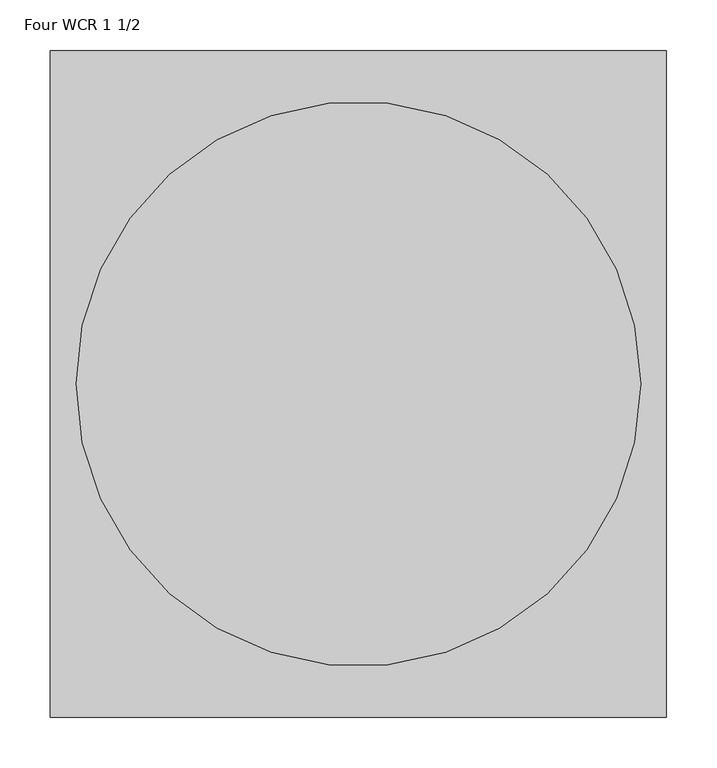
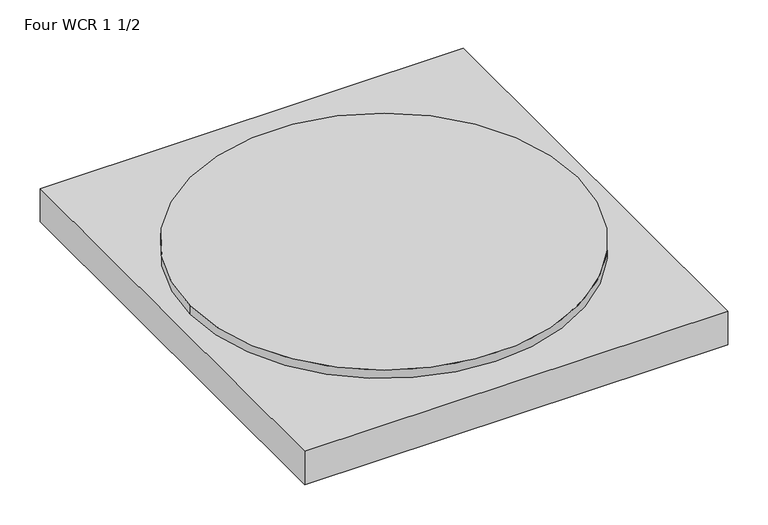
"""IFC4 building model written with IfcOpenShell, lengths in millimetres: proxy geometry, Junction_Box-Walkercell-Wiremold : Four WCR 1 1/2."""

from ifc_helpers import new_model, si_unit, point, frame, origin, origin_2d, place, context, project, spatial, polyline, circle_curve, trimmed, segment, composite_curve, outline, extrude, source, transform, mapped, element, save


def four_wcr_1_1_2_b9efa807(model_context):
    return source(origin(), model_context, "Body", "SweptSolid", [
        extrude(outline(composite_curve([segment(trimmed(circle_curve(origin_2d(), 279.4), [point((-279.4, 0.0))], [point((279.4, 0.0))], False, "CARTESIAN"), True, "CONTINUOUS"), segment(trimmed(circle_curve(origin_2d(), 279.4), [point((279.4, 0.0))], [point((-279.4, 0.0))], False, "CARTESIAN"), True, "CONTINUOUS")], self_intersect=False)), frame((0.0, 0.0, 12.7), z_axis=(0.0, 0.0, 1.0), x_axis=(1.0, 0.0, 0.0)), (0.0, 0.0, 1.0), 12.7),
        extrude(outline(polyline([(304.8, 330.2), (304.8, -330.2), (-304.8, -330.2), (-304.8, 330.2), (304.8, 330.2)])), frame((0.0, 0.0, -38.1), z_axis=(0.0, 0.0, 1.0), x_axis=(1.0, 0.0, 0.0)), (0.0, 0.0, 1.0), 50.8),
    ])


if __name__ == "__main__":
    model = new_model("IFC4")
    model_context = context("Model", 3, world=origin())
    ifc_project = project(units=[si_unit("LENGTHUNIT", "METRE", prefix="MILLI")], contexts=[model_context])
    site = spatial("IfcSite", under=ifc_project)
    building = spatial("IfcBuilding", under=site)
    placement = place(None, origin())
    four_wcr_1_1_2_shape = four_wcr_1_1_2_b9efa807(model_context)
    element("IfcBuildingElementProxy", 1, Name="Junction_Box-Walkercell-Wiremold : Four WCR 1 1/2", ObjectType="Junction_Box-Walkercell-Wiremold : Four WCR 1 1/2", at=placement, inside=building, context=model_context, shape_type="MappedRepresentation", body=[
        mapped(four_wcr_1_1_2_shape, transform((0.0, 0.0, 0.0), x_axis=(1.0, 0.0, 0.0), y_axis=(0.0, 1.0, 0.0), z_axis=(0.0, 0.0, 1.0))),
    ])
    save(model, "model.ifc")
